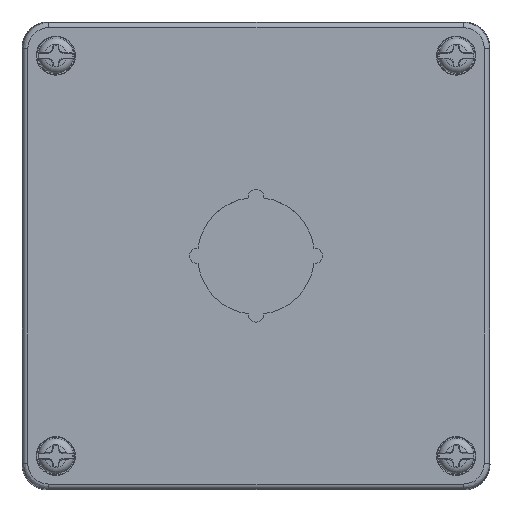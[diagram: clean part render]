
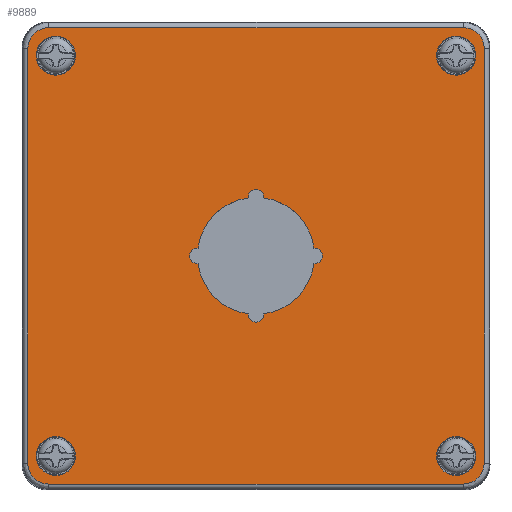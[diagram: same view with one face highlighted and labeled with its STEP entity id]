
A CAD part, top view. The second image highlights one B-rep face of the part: STEP entity #9889.
In plain terms, the highlighted planar face has unit normal (0, 0, 1) as drawn and (0, 0, -1) by its records, which use the part's own axes.
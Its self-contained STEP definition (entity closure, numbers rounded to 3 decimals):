
#542=ELLIPSE('',#10780,4.,4.);
#543=ELLIPSE('',#10781,4.,4.);
#544=ELLIPSE('',#10782,4.,4.);
#545=ELLIPSE('',#10783,4.,4.);
#632=FACE_BOUND('',#1659,.T.);
#633=FACE_BOUND('',#1660,.T.);
#634=FACE_BOUND('',#1661,.T.);
#635=FACE_BOUND('',#1662,.T.);
#636=FACE_BOUND('',#1663,.T.);
#957=FACE_OUTER_BOUND('',#1658,.T.);
#1658=EDGE_LOOP('',(#7677,#7678,#7679,#7680,#7681,#7682,#7683,#7684));
#1659=EDGE_LOOP('',(#7685,#7686,#7687,#7688,#7689,#7690,#7691,#7692));
#1660=EDGE_LOOP('',(#7693));
#1661=EDGE_LOOP('',(#7694));
#1662=EDGE_LOOP('',(#7695));
#1663=EDGE_LOOP('',(#7696));
#2390=LINE('',#16747,#3094);
#2391=LINE('',#16751,#3095);
#2392=LINE('',#16755,#3096);
#2393=LINE('',#16758,#3097);
#3094=VECTOR('',#12905,79.756);
#3095=VECTOR('',#12908,79.756);
#3096=VECTOR('',#12911,79.756);
#3097=VECTOR('',#12914,79.756);
#3686=CIRCLE('',#10711,1.5);
#3688=CIRCLE('',#10714,1.5);
#3691=CIRCLE('',#10718,1.5);
#3692=CIRCLE('',#10720,1.5);
#3710=CIRCLE('',#10740,11.25);
#3711=CIRCLE('',#10742,11.25);
#3712=CIRCLE('',#10744,11.25);
#3713=CIRCLE('',#10746,11.25);
#3734=CIRCLE('',#10784,3.75);
#3735=CIRCLE('',#10785,3.75);
#3736=CIRCLE('',#10786,3.75);
#3737=CIRCLE('',#10787,3.75);
#4481=VERTEX_POINT('',#16594);
#4483=VERTEX_POINT('',#16597);
#4485=VERTEX_POINT('',#16603);
#4487=VERTEX_POINT('',#16606);
#4490=VERTEX_POINT('',#16613);
#4492=VERTEX_POINT('',#16617);
#4493=VERTEX_POINT('',#16621);
#4495=VERTEX_POINT('',#16624);
#4541=VERTEX_POINT('',#16743);
#4542=VERTEX_POINT('',#16744);
#4543=VERTEX_POINT('',#16746);
#4544=VERTEX_POINT('',#16748);
#4545=VERTEX_POINT('',#16750);
#4546=VERTEX_POINT('',#16752);
#4547=VERTEX_POINT('',#16754);
#4548=VERTEX_POINT('',#16756);
#4549=VERTEX_POINT('',#16759);
#4550=VERTEX_POINT('',#16761);
#4551=VERTEX_POINT('',#16763);
#4552=VERTEX_POINT('',#16765);
#5603=EDGE_CURVE('',#4483,#4481,#3686,.T.);
#5607=EDGE_CURVE('',#4487,#4485,#3688,.T.);
#5613=EDGE_CURVE('',#4490,#4492,#3691,.T.);
#5615=EDGE_CURVE('',#4495,#4493,#3692,.T.);
#5646=EDGE_CURVE('',#4493,#4490,#3710,.T.);
#5647=EDGE_CURVE('',#4492,#4487,#3711,.T.);
#5648=EDGE_CURVE('',#4485,#4483,#3712,.T.);
#5649=EDGE_CURVE('',#4481,#4495,#3713,.T.);
#5670=EDGE_CURVE('',#4541,#4542,#542,.T.);
#5671=EDGE_CURVE('',#4543,#4541,#2390,.T.);
#5672=EDGE_CURVE('',#4544,#4543,#543,.T.);
#5673=EDGE_CURVE('',#4545,#4544,#2391,.T.);
#5674=EDGE_CURVE('',#4546,#4545,#544,.T.);
#5675=EDGE_CURVE('',#4547,#4546,#2392,.T.);
#5676=EDGE_CURVE('',#4548,#4547,#545,.T.);
#5677=EDGE_CURVE('',#4542,#4548,#2393,.T.);
#5678=EDGE_CURVE('',#4549,#4549,#3734,.T.);
#5679=EDGE_CURVE('',#4550,#4550,#3735,.T.);
#5680=EDGE_CURVE('',#4551,#4551,#3736,.T.);
#5681=EDGE_CURVE('',#4552,#4552,#3737,.T.);
#7677=ORIENTED_EDGE('',*,*,#5670,.F.);
#7678=ORIENTED_EDGE('',*,*,#5671,.F.);
#7679=ORIENTED_EDGE('',*,*,#5672,.F.);
#7680=ORIENTED_EDGE('',*,*,#5673,.F.);
#7681=ORIENTED_EDGE('',*,*,#5674,.F.);
#7682=ORIENTED_EDGE('',*,*,#5675,.F.);
#7683=ORIENTED_EDGE('',*,*,#5676,.F.);
#7684=ORIENTED_EDGE('',*,*,#5677,.F.);
#7685=ORIENTED_EDGE('',*,*,#5603,.T.);
#7686=ORIENTED_EDGE('',*,*,#5649,.T.);
#7687=ORIENTED_EDGE('',*,*,#5615,.T.);
#7688=ORIENTED_EDGE('',*,*,#5646,.T.);
#7689=ORIENTED_EDGE('',*,*,#5613,.T.);
#7690=ORIENTED_EDGE('',*,*,#5647,.T.);
#7691=ORIENTED_EDGE('',*,*,#5607,.T.);
#7692=ORIENTED_EDGE('',*,*,#5648,.T.);
#7693=ORIENTED_EDGE('',*,*,#5678,.T.);
#7694=ORIENTED_EDGE('',*,*,#5679,.T.);
#7695=ORIENTED_EDGE('',*,*,#5680,.T.);
#7696=ORIENTED_EDGE('',*,*,#5681,.T.);
#9505=PLANE('',#10779);
#9889=ADVANCED_FACE('',(#957,#632,#633,#634,#635,#636),#9505,.F.);
#10711=AXIS2_PLACEMENT_3D('',#16598,#12746,#12747);
#10714=AXIS2_PLACEMENT_3D('',#16607,#12754,#12755);
#10718=AXIS2_PLACEMENT_3D('',#16619,#12765,#12766);
#10720=AXIS2_PLACEMENT_3D('',#16625,#12770,#12771);
#10740=AXIS2_PLACEMENT_3D('',#16683,#12823,#12824);
#10742=AXIS2_PLACEMENT_3D('',#16685,#12827,#12828);
#10744=AXIS2_PLACEMENT_3D('',#16687,#12831,#12832);
#10746=AXIS2_PLACEMENT_3D('',#16689,#12835,#12836);
#10779=AXIS2_PLACEMENT_3D('',#16742,#12901,#12902);
#10780=AXIS2_PLACEMENT_3D('',#16745,#12903,#12904);
#10781=AXIS2_PLACEMENT_3D('',#16749,#12906,#12907);
#10782=AXIS2_PLACEMENT_3D('',#16753,#12909,#12910);
#10783=AXIS2_PLACEMENT_3D('',#16757,#12912,#12913);
#10784=AXIS2_PLACEMENT_3D('',#16760,#12915,#12916);
#10785=AXIS2_PLACEMENT_3D('',#16762,#12917,#12918);
#10786=AXIS2_PLACEMENT_3D('',#16764,#12919,#12920);
#10787=AXIS2_PLACEMENT_3D('',#16766,#12921,#12922);
#12746=DIRECTION('center_axis',(0.,0.,1.));
#12747=DIRECTION('ref_axis',(-1.,0.,0.));
#12754=DIRECTION('center_axis',(0.,0.,1.));
#12755=DIRECTION('ref_axis',(-1.,0.,0.));
#12765=DIRECTION('center_axis',(0.,0.,1.));
#12766=DIRECTION('ref_axis',(-1.,0.,0.));
#12770=DIRECTION('center_axis',(0.,0.,1.));
#12771=DIRECTION('ref_axis',(-1.,0.,0.));
#12823=DIRECTION('center_axis',(0.,0.,1.));
#12824=DIRECTION('ref_axis',(-1.,0.,0.));
#12827=DIRECTION('center_axis',(0.,0.,1.));
#12828=DIRECTION('ref_axis',(-1.,0.,0.));
#12831=DIRECTION('center_axis',(0.,0.,1.));
#12832=DIRECTION('ref_axis',(-1.,0.,0.));
#12835=DIRECTION('center_axis',(0.,0.,1.));
#12836=DIRECTION('ref_axis',(-1.,0.,0.));
#12901=DIRECTION('center_axis',(0.,0.,1.));
#12902=DIRECTION('ref_axis',(1.,0.,0.));
#12903=DIRECTION('center_axis',(0.,0.,1.));
#12904=DIRECTION('ref_axis',(0.707,-0.707,0.));
#12905=DIRECTION('',(1.,0.,0.));
#12906=DIRECTION('center_axis',(0.,0.,1.));
#12907=DIRECTION('ref_axis',(-0.707,-0.707,0.));
#12908=DIRECTION('',(0.,-1.,0.));
#12909=DIRECTION('center_axis',(0.,0.,1.));
#12910=DIRECTION('ref_axis',(-0.707,0.707,0.));
#12911=DIRECTION('',(-1.,0.,0.));
#12912=DIRECTION('center_axis',(0.,0.,1.));
#12913=DIRECTION('ref_axis',(0.707,0.707,0.));
#12914=DIRECTION('',(0.,1.,0.));
#12915=DIRECTION('center_axis',(0.,0.,1.));
#12916=DIRECTION('ref_axis',(-1.,0.,0.));
#12917=DIRECTION('center_axis',(0.,0.,1.));
#12918=DIRECTION('ref_axis',(-1.,0.,0.));
#12919=DIRECTION('center_axis',(0.,0.,1.));
#12920=DIRECTION('ref_axis',(-1.,0.,0.));
#12921=DIRECTION('center_axis',(0.,0.,1.));
#12922=DIRECTION('ref_axis',(-1.,0.,0.));
#16594=CARTESIAN_POINT('',(46.661,-37.34,-15.));
#16597=CARTESIAN_POINT('',(46.661,-40.333,-15.));
#16598=CARTESIAN_POINT('Origin',(46.761,-38.836,-15.));
#16603=CARTESIAN_POINT('',(37.008,-49.986,-15.));
#16606=CARTESIAN_POINT('',(34.015,-49.986,-15.));
#16607=CARTESIAN_POINT('Origin',(35.511,-50.086,-15.));
#16613=CARTESIAN_POINT('',(24.361,-37.34,-15.));
#16617=CARTESIAN_POINT('',(24.361,-40.333,-15.));
#16619=CARTESIAN_POINT('Origin',(24.261,-38.836,-15.));
#16621=CARTESIAN_POINT('',(34.015,-27.686,-15.));
#16624=CARTESIAN_POINT('',(37.008,-27.686,-15.));
#16625=CARTESIAN_POINT('Origin',(35.511,-27.586,-15.));
#16683=CARTESIAN_POINT('Origin',(35.511,-38.836,-15.));
#16685=CARTESIAN_POINT('Origin',(35.511,-38.836,-15.));
#16687=CARTESIAN_POINT('Origin',(35.511,-38.836,-15.));
#16689=CARTESIAN_POINT('Origin',(35.511,-38.836,-15.));
#16742=CARTESIAN_POINT('Origin',(35.511,-38.836,-15.));
#16743=CARTESIAN_POINT('',(75.389,-82.714,-15.));
#16744=CARTESIAN_POINT('',(79.389,-78.714,-15.));
#16745=CARTESIAN_POINT('Origin',(75.389,-78.714,-15.));
#16746=CARTESIAN_POINT('',(-4.367,-82.714,-15.));
#16747=CARTESIAN_POINT('',(13.011,-82.714,-15.));
#16748=CARTESIAN_POINT('',(-8.367,-78.714,-15.));
#16749=CARTESIAN_POINT('Origin',(-4.366,-78.714,-15.));
#16750=CARTESIAN_POINT('',(-8.367,1.041,-15.));
#16751=CARTESIAN_POINT('',(-8.367,-16.336,-15.));
#16752=CARTESIAN_POINT('',(-4.367,5.041,-15.));
#16753=CARTESIAN_POINT('Origin',(-4.366,1.041,-15.));
#16754=CARTESIAN_POINT('',(75.389,5.041,-15.));
#16755=CARTESIAN_POINT('',(58.011,5.041,-15.));
#16756=CARTESIAN_POINT('',(79.389,1.041,-15.));
#16757=CARTESIAN_POINT('Origin',(75.389,1.041,-15.));
#16758=CARTESIAN_POINT('',(79.389,-61.336,-15.));
#16759=CARTESIAN_POINT('',(-6.739,-77.336,-15.));
#16760=CARTESIAN_POINT('Origin',(-2.989,-77.336,-15.));
#16761=CARTESIAN_POINT('',(70.261,-0.336,-15.));
#16762=CARTESIAN_POINT('Origin',(74.011,-0.336,-15.));
#16763=CARTESIAN_POINT('',(-6.739,-0.336,-15.));
#16764=CARTESIAN_POINT('Origin',(-2.989,-0.336,-15.));
#16765=CARTESIAN_POINT('',(70.261,-77.336,-15.));
#16766=CARTESIAN_POINT('Origin',(74.011,-77.336,-15.));
